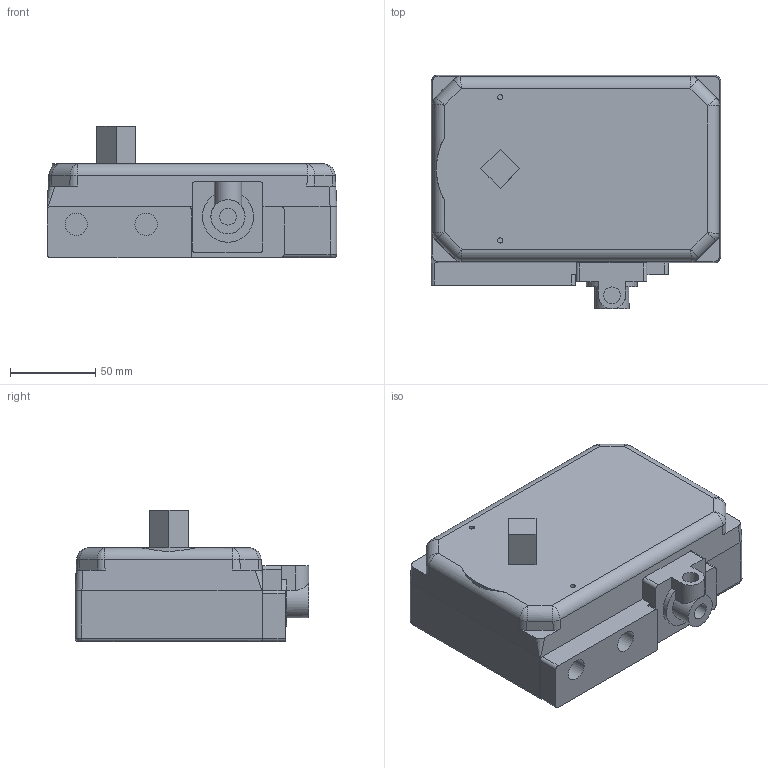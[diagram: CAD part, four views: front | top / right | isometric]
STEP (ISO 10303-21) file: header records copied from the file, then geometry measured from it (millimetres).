
FILE_DESCRIPTION( ( 'Unknown' ), '1' );
FILE_NAME( 'H:/3D Models for Customers/AP & HP/074-050AP SIMPLE AP POS..stp', 'Unknown', ( 'Unknown' ), ( 'Unknown' ), 'PSStep 13.0', 'Unknown', ' ' );
FILE_SCHEMA( ( 'AUTOMOTIVE_DESIGN { 1 0 10303 214 1 1 1 1 }' ) );
Length unit declared in the file: millimetre
Products named in the file (1): 1
Bounding box: 170 x 137.2 x 77 mm (x, y, z)
Volume: 1054406 mm3; surface area: 81229.3 mm2
Topology: 1 solids, 2 shells, 132 faces, 296 edges, 176 vertices
Faces by surface type: plane 61, cylinder 52, bspline 16, extrusion 3
Full cylindrical faces by diameter (mm): 3 x2, 6 x4, 8 x2, 9.728 x2, 12 x1, 13.106 x2, 16 x1, 20 x1, 23.5 x1, 25 x1
Entity records: 6206 total; most frequent: CARTESIAN_POINT 2297, DIRECTION 609, ORIENTED_EDGE 544, EDGE_CURVE 272, AXIS2_PLACEMENT_3D 230, VERTEX_POINT 176, EDGE_LOOP 164, VECTOR 149
